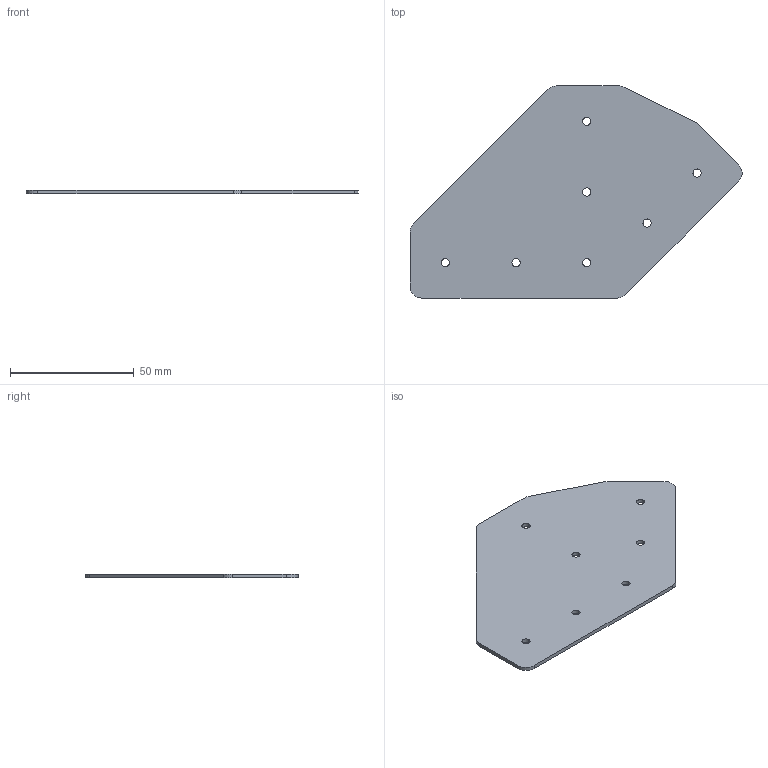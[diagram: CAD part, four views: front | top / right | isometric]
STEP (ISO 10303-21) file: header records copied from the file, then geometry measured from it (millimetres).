
FILE_DESCRIPTION (( 'STEP AP203' ), '1' );
FILE_NAME ('FDPGK-S_1-90135.step', '2019-09-11T19:48:01', ( 'ydmin' ), ( '' ), 'SwSTEP 2.0', 'SolidWorks 2017', '' );
FILE_SCHEMA (( 'CONFIG_CONTROL_DESIGN' ));
Length unit declared in the file: inch
Products named in the file (1): FDPGK-S_1-90135
Bounding box: 134.21 x 85.72 x 1.59 mm (x, y, z)
Volume: 12642.6 mm3; surface area: 16602.8 mm2
Topology: 1 solids, 1 shells, 30 faces, 84 edges, 56 vertices
Faces by surface type: cylinder 21, plane 9
Entity records: 1097 total; most frequent: DIRECTION 188, CARTESIAN_POINT 171, ORIENTED_EDGE 168, EDGE_CURVE 84, AXIS2_PLACEMENT_3D 73, VERTEX_POINT 56, EDGE_LOOP 44, LINE 42
